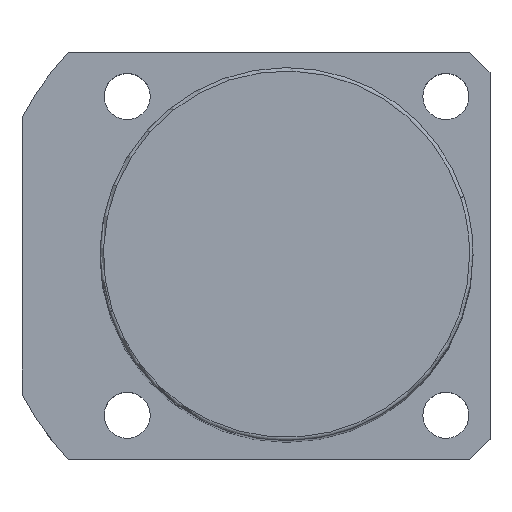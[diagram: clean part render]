
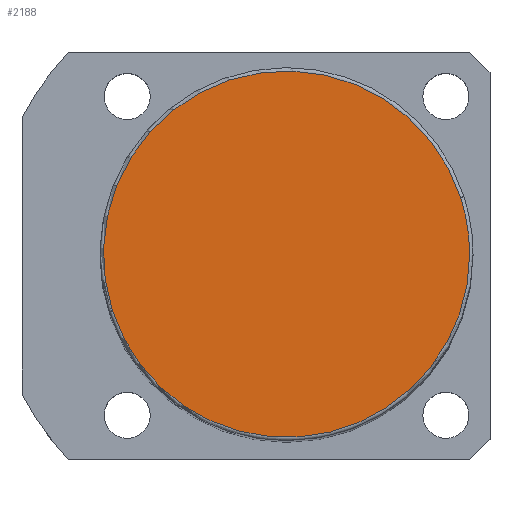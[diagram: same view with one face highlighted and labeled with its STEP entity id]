
A CAD part, top view. The second image highlights one B-rep face of the part: STEP entity #2188.
In plain terms, the highlighted planar face has unit normal (0, 0, 1).
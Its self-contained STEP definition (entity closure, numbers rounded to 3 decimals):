
#2154=CARTESIAN_POINT('',(27.0,0.0,156.0));
#2155=VERTEX_POINT('',#2154);
#2156=CARTESIAN_POINT('',(25.679,8.343,156.0));
#2157=VERTEX_POINT('',#2156);
#2158=CARTESIAN_POINT('',(0.0,0.0,156.0));
#2159=DIRECTION('',(0.0,0.0,1.0));
#2160=DIRECTION('',(1.0,0.0,0.0));
#2161=AXIS2_PLACEMENT_3D('',#2158,#2159,#2160);
#2162=CIRCLE('',#2161,27.0);
#2163=EDGE_CURVE('no 2179',#2155,#2157,#2162,.T.);
#2164=ORIENTED_EDGE('',*,*,#2163,.T.);
#2165=CARTESIAN_POINT('',(-25.679,-8.343,156.0));
#2166=VERTEX_POINT('',#2165);
#2167=CARTESIAN_POINT('',(0.0,0.0,156.0));
#2168=DIRECTION('',(0.0,0.0,1.0));
#2169=DIRECTION('',(1.0,0.0,0.0));
#2170=AXIS2_PLACEMENT_3D('',#2167,#2168,#2169);
#2171=CIRCLE('',#2170,27.0);
#2172=EDGE_CURVE('no 2185',#2157,#2166,#2171,.T.);
#2173=ORIENTED_EDGE('',*,*,#2172,.T.);
#2174=CARTESIAN_POINT('',(0.0,0.0,156.0));
#2175=DIRECTION('',(0.0,0.0,1.0));
#2176=DIRECTION('',(1.0,0.0,0.0));
#2177=AXIS2_PLACEMENT_3D('',#2174,#2175,#2176);
#2178=CIRCLE('',#2177,27.0);
#2179=EDGE_CURVE('no 2189',#2166,#2155,#2178,.T.);
#2180=ORIENTED_EDGE('',*,*,#2179,.T.);
#2181=EDGE_LOOP('',(#2164,#2173,#2180));
#2182=FACE_OUTER_BOUND('',#2181,.T.);
#2183=CARTESIAN_POINT('',(0.0,0.0,156.0));
#2184=DIRECTION('',(0.0,0.0,1.0));
#2185=DIRECTION('',(1.0,0.0,0.0));
#2186=AXIS2_PLACEMENT_3D('',#2183,#2184,#2185);
#2187=PLANE('',#2186);
#2188=ADVANCED_FACE('no 2170',(#2182),#2187,.T.);
